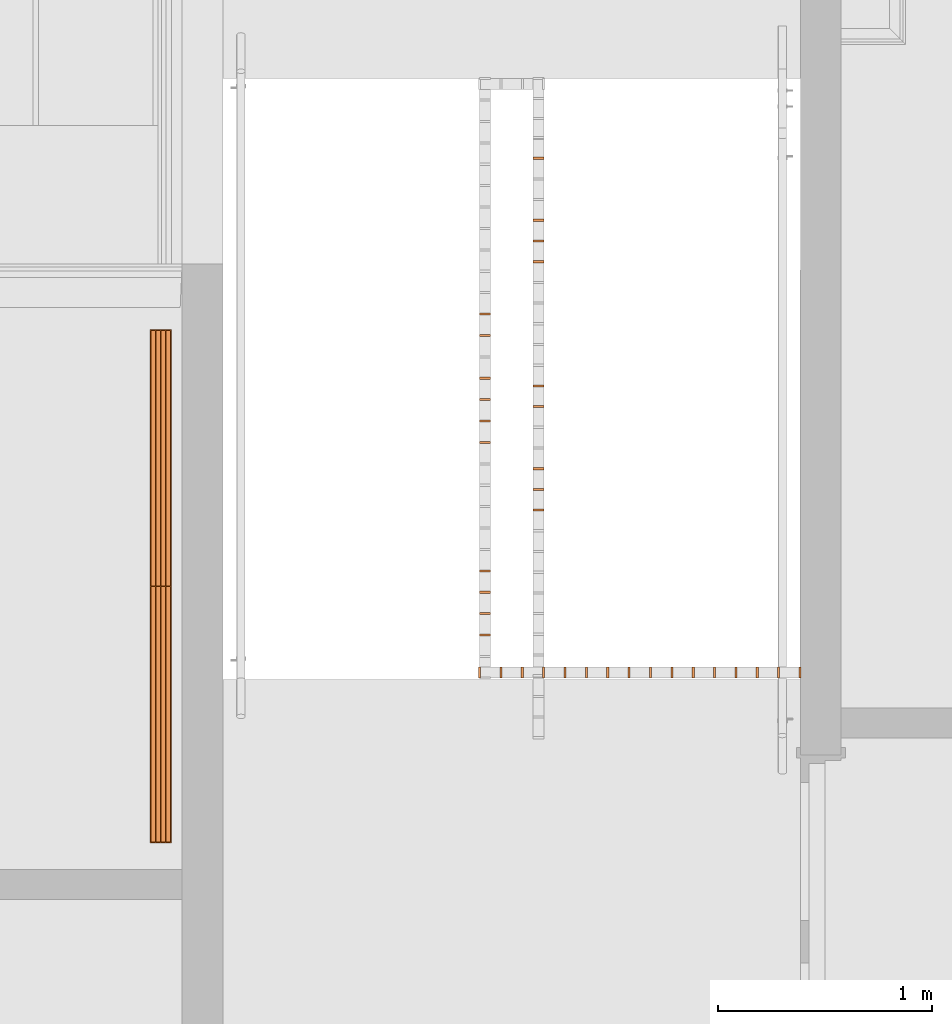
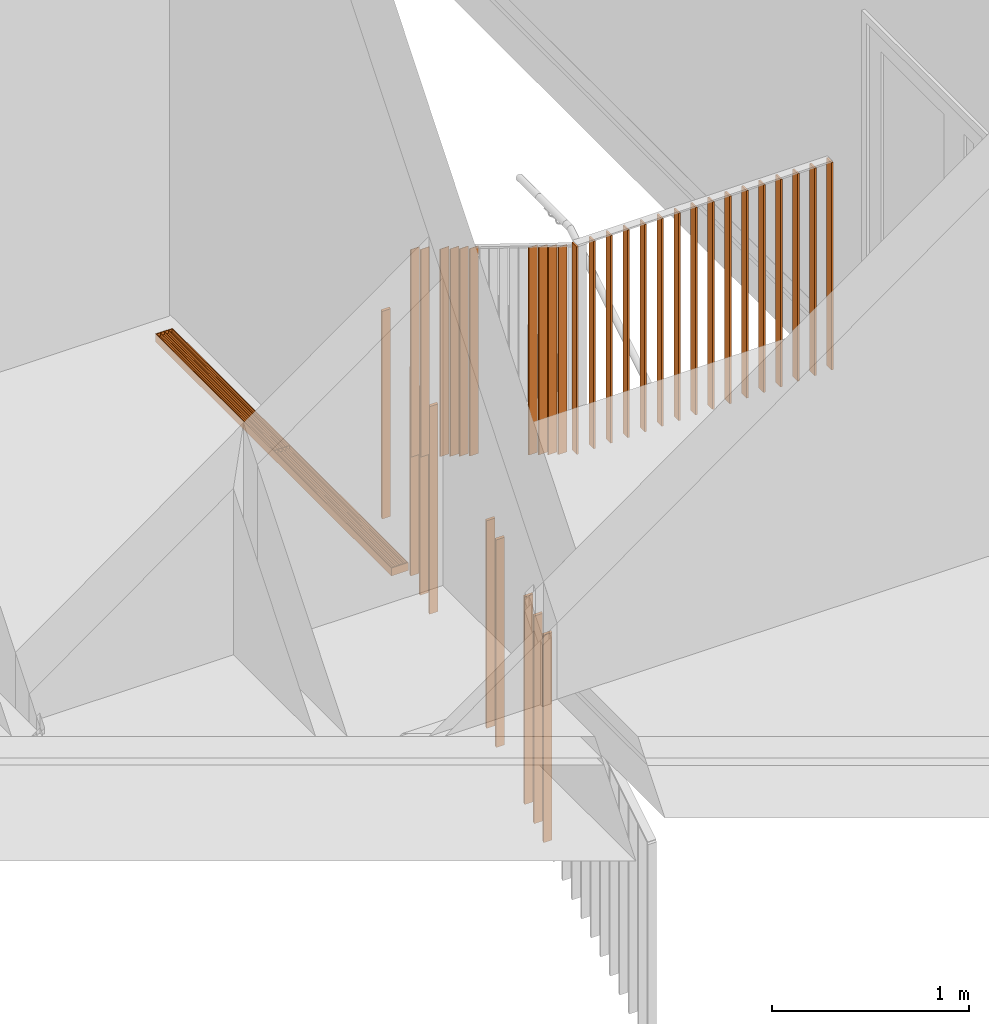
# One storey, part 75 of 100: 36 proxies, 3 elements without a shape of their own.
"""IFC2X3 building model written with IfcOpenShell, lengths in millimetres."""

from ifc_helpers import new_model, entity, si_unit, converted_unit, derived_unit, money_unit, direction, frame, origin_with_axes, place, context, subcontext, project, spatial, faceted_brep, source, transform, mapped, material, type_object, element, aggregate, save


model = new_model("IFC2X3")

# Units and contexts
model_context = context("Model", 3, precision=0.01, world=origin_with_axes(), true_north=direction((0.0, 1.0)))
body_context = subcontext(model_context, "Body", "Model", "MODEL_VIEW")
ifc_project = project(units=[si_unit("LENGTHUNIT", "METRE", prefix="MILLI"), si_unit("AREAUNIT", "SQUARE_METRE"), si_unit("VOLUMEUNIT", "CUBIC_METRE"), converted_unit("PLANEANGLEUNIT", "DEGREE", entity("IfcPlaneAngleMeasure", 0.0174532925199), si_unit("PLANEANGLEUNIT", "RADIAN"), dimensions=[0, 0, 0, 0, 0, 0, 0]), si_unit("SOLIDANGLEUNIT", "STERADIAN"), money_unit("EUR"), converted_unit("TIMEUNIT", "Year", entity("IfcTimeMeasure", 31556926.0), si_unit("TIMEUNIT", "SECOND"), dimensions=[0, 0, 1, 0, 0, 0, 0]), si_unit("MASSUNIT", "GRAM", prefix="KILO"), si_unit("THERMODYNAMICTEMPERATUREUNIT", "DEGREE_CELSIUS"), si_unit("LUMINOUSINTENSITYUNIT", "LUMEN"), si_unit("ENERGYUNIT", "JOULE", prefix="MEGA"), derived_unit("THERMALCONDUCTANCEUNIT", [(si_unit("POWERUNIT", "WATT"), 1), (si_unit("LENGTHUNIT", "METRE"), -1), (si_unit("THERMODYNAMICTEMPERATUREUNIT", "KELVIN"), -1)]), derived_unit("SPECIFICHEATCAPACITYUNIT", [(si_unit("ENERGYUNIT", "JOULE"), 1), (si_unit("MASSUNIT", "GRAM", prefix="KILO"), -1), (si_unit("THERMODYNAMICTEMPERATUREUNIT", "KELVIN"), -1)]), derived_unit("MASSDENSITYUNIT", [(si_unit("MASSUNIT", "GRAM", prefix="KILO"), 1), (si_unit("VOLUMEUNIT", "CUBIC_METRE"), -1)])], contexts=[model_context])

# Site, building, storey
site_placement = place(None, origin_with_axes())
site = spatial("IfcSite", under=ifc_project, at=site_placement, Name="Politse- ja Piirivalveameti ning Päästeameti ühishoone", CompositionType="ELEMENT")
building_placement = place(site_placement, origin_with_axes())
building = spatial("IfcBuilding", under=site, at=building_placement, Name="Politse- ja Piirivalveameti ning Päästeameti ühishoone", CompositionType="ELEMENT")
storey_placement = place(building_placement, frame((0.0, 0.0, 3800.0), z_axis=(0.0, 0.0, 1.0), x_axis=(1.0, 0.0, 0.0)))
storey = spatial("IfcBuildingStorey", under=building, at=storey_placement, Name="Teine korrus", CompositionType="ELEMENT", Elevation=3800.0)

# Railing, proxies
railing_type = type_object("IfcRailingType", Name="Railing Type", PredefinedType="NOTDEFINED")
railing_1_placement = place(storey_placement, frame((61660.557259, 19348.024656, -3925.83291166), z_axis=(0.0, 0.0, 1.0), x_axis=(-1.0, 0.0, 0.0)))
railing_1 = element("IfcRailing", 1, at=railing_1_placement, inside=storey, type_object=railing_type, Name="TREPIPIIR 1", PredefinedType="NOTDEFINED")
ifc_material = material(Name="Teras - Konstruktsioon")
building_element_proxy_type_1 = type_object("IfcBuildingElementProxyType", Name="IfcBuildingElementProxy", PredefinedType="NOTDEFINED")
shared_shape_1 = source(origin_with_axes(), body_context, "Body", "Brep", [
    faceted_brep([(25.0, 5.0, -3.08185890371), (-25.0, 5.0, -3.08185890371), (-25.0, 5.0, 1286.91815365), (25.0, 5.0, 1286.91815365), (25.0, -5.0, 3.08185890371), (-25.0, -5.0, 3.08185890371), (-25.0, -5.0, 1293.08187146), (25.0, -5.0, 1293.08187146)], [[[0, 1, 2, 3]], [[0, 4, 5, 1]], [[1, 5, 6, 2]], [[3, 2, 6, 7]], [[4, 0, 3, 7]], [[5, 4, 7, 6]]]),
])
proxy_1_placement = place(railing_1_placement, frame((25.0, 219.796710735, 1669.30480329), z_axis=(0.0, 0.0, 1.0), x_axis=(-1.0, 0.0, 0.0)))
proxy_1 = element("IfcBuildingElementProxy", 2, at=proxy_1_placement, type_object=building_element_proxy_type_1, material=ifc_material, Name="BALUSTER - 001", context=body_context, shape_type="MappedRepresentation", body=[
    mapped(shared_shape_1, transform((0.0, 0.0, 0.0), x_axis=(-1.0, 0.0, 0.0), y_axis=(0.0, -1.0, 0.0), z_axis=(0.0, 0.0, 1.0))),
])
proxy_2_placement = place(railing_1_placement, frame((25.0, 509.969124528, 1490.45071588), z_axis=(0.0, 0.0, 1.0), x_axis=(-1.0, 0.0, 0.0)))
proxy_2 = element("IfcBuildingElementProxy", 3, at=proxy_2_placement, type_object=building_element_proxy_type_1, material=ifc_material, Name="BALUSTER - 001", context=body_context, shape_type="MappedRepresentation", body=[
    mapped(shared_shape_1, transform((0.0, 0.0, 0.0), x_axis=(-1.0, 0.0, 0.0), y_axis=(0.0, -1.0, 0.0), z_axis=(0.0, 0.0, 1.0))),
])
shared_shape_2 = source(origin_with_axes(), body_context, "Body", "Brep", [
    faceted_brep([(25.0, 5.0, -3.08185890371), (-25.0, 5.0, -3.08185890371), (-25.0, 5.0, 1286.91815365), (25.0, 5.0, 1286.91815365), (25.0, -5.0, 3.08185890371), (-25.0, -5.0, 3.08185890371), (-25.0, -5.0, 1293.08187146), (25.0, -5.0, 1293.08187146)], [[[0, 1, 2, 3]], [[0, 4, 5, 1]], [[1, 5, 6, 2]], [[3, 2, 6, 7]], [[4, 0, 3, 7]], [[5, 4, 7, 6]]]),
])
proxy_3_placement = place(railing_1_placement, frame((25.0, 606.69326246, 1430.83268674), z_axis=(0.0, 0.0, 1.0), x_axis=(-1.0, 0.0, 0.0)))
proxy_3 = element("IfcBuildingElementProxy", 4, at=proxy_3_placement, type_object=building_element_proxy_type_1, material=ifc_material, Name="BALUSTER - 001", context=body_context, shape_type="MappedRepresentation", body=[
    mapped(shared_shape_2, transform((0.0, 0.0, 0.0), x_axis=(-1.0, 0.0, 0.0), y_axis=(0.0, -1.0, 0.0), z_axis=(0.0, 0.0, 1.0))),
])
shared_shape_3 = source(origin_with_axes(), body_context, "Body", "Brep", [
    faceted_brep([(25.0, 5.0, -3.08185890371), (-25.0, 5.0, -3.08185890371), (-25.0, 5.0, 1286.91815365), (25.0, 5.0, 1286.91815365), (25.0, -5.0, 3.08185890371), (-25.0, -5.0, 3.08185890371), (-25.0, -5.0, 1293.08187146), (25.0, -5.0, 1293.08187146)], [[[0, 1, 2, 3]], [[0, 4, 5, 1]], [[1, 5, 6, 2]], [[3, 2, 6, 7]], [[4, 0, 3, 7]], [[5, 4, 7, 6]]]),
])
proxy_4_placement = place(railing_1_placement, frame((25.0, 703.417400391, 1371.21465761), z_axis=(0.0, 0.0, 1.0), x_axis=(-1.0, 0.0, 0.0)))
proxy_4 = element("IfcBuildingElementProxy", 5, at=proxy_4_placement, type_object=building_element_proxy_type_1, material=ifc_material, Name="BALUSTER - 001", context=body_context, shape_type="MappedRepresentation", body=[
    mapped(shared_shape_3, transform((0.0, 0.0, 0.0), x_axis=(-1.0, 0.0, 0.0), y_axis=(0.0, -1.0, 0.0), z_axis=(0.0, 0.0, 1.0))),
])
proxy_5_placement = place(railing_1_placement, frame((25.0, 1283.76222798, 1013.50648278), z_axis=(0.0, 0.0, 1.0), x_axis=(-1.0, 0.0, 0.0)))
proxy_5 = element("IfcBuildingElementProxy", 6, at=proxy_5_placement, type_object=building_element_proxy_type_1, material=ifc_material, Name="BALUSTER - 001", context=body_context, shape_type="MappedRepresentation", body=[
    mapped(shared_shape_3, transform((0.0, 0.0, 0.0), x_axis=(-1.0, 0.0, 0.0), y_axis=(0.0, -1.0, 0.0), z_axis=(0.0, 0.0, 1.0))),
])
proxy_6_placement = place(railing_1_placement, frame((25.0, 1864.10705556, 655.798307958), z_axis=(0.0, 0.0, 1.0), x_axis=(-1.0, 0.0, 0.0)))
proxy_6 = element("IfcBuildingElementProxy", 7, at=proxy_6_placement, type_object=building_element_proxy_type_1, material=ifc_material, Name="BALUSTER - 001", context=body_context, shape_type="MappedRepresentation", body=[
    mapped(shared_shape_3, transform((0.0, 0.0, 0.0), x_axis=(-1.0, 0.0, 0.0), y_axis=(0.0, -1.0, 0.0), z_axis=(0.0, 0.0, 1.0))),
])
shared_shape_4 = source(origin_with_axes(), body_context, "Body", "Brep", [
    faceted_brep([(25.0, 5.0, -3.08185890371), (-25.0, 5.0, -3.08185890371), (-25.0, 5.0, 1286.91815365), (25.0, 5.0, 1286.91815365), (25.0, -5.0, 3.08185890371), (-25.0, -5.0, 3.08185890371), (-25.0, -5.0, 1293.08187146), (25.0, -5.0, 1293.08187146)], [[[0, 1, 2, 3]], [[0, 4, 5, 1]], [[1, 5, 6, 2]], [[3, 2, 6, 7]], [[4, 0, 3, 7]], [[5, 4, 7, 6]]]),
])
proxy_7_placement = place(railing_1_placement, frame((25.0, 1767.38291763, 715.416337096), z_axis=(0.0, 0.0, 1.0), x_axis=(-1.0, 0.0, 0.0)))
proxy_7 = element("IfcBuildingElementProxy", 8, at=proxy_7_placement, type_object=building_element_proxy_type_1, material=ifc_material, Name="BALUSTER - 001", context=body_context, shape_type="MappedRepresentation", body=[
    mapped(shared_shape_4, transform((0.0, 0.0, 0.0), x_axis=(-1.0, 0.0, 0.0), y_axis=(0.0, -1.0, 0.0), z_axis=(0.0, 0.0, 1.0))),
])
shared_shape_5 = source(origin_with_axes(), body_context, "Body", "Brep", [
    faceted_brep([(25.0, 5.0, -3.08185890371), (-25.0, 5.0, -3.08185890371), (-25.0, 5.0, 1286.91815365), (25.0, 5.0, 1286.91815365), (25.0, -5.0, 3.08185890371), (-25.0, -5.0, 3.08185890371), (-25.0, -5.0, 1293.08187146), (25.0, -5.0, 1293.08187146)], [[[0, 1, 2, 3]], [[0, 4, 5, 1]], [[1, 5, 6, 2]], [[3, 2, 6, 7]], [[4, 0, 3, 7]], [[5, 4, 7, 6]]]),
])
proxy_8_placement = place(railing_1_placement, frame((25.0, 1380.48636591, 953.888453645), z_axis=(0.0, 0.0, 1.0), x_axis=(-1.0, 0.0, 0.0)))
proxy_8 = element("IfcBuildingElementProxy", 9, at=proxy_8_placement, type_object=building_element_proxy_type_1, material=ifc_material, Name="BALUSTER - 001", context=body_context, shape_type="MappedRepresentation", body=[
    mapped(shared_shape_5, transform((0.0, 0.0, 0.0), x_axis=(-1.0, 0.0, 0.0), y_axis=(0.0, -1.0, 0.0), z_axis=(0.0, 0.0, 1.0))),
])
proxy_9_placement = place(railing_1_placement, frame((25.0, 1670.6587797, 775.034366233), z_axis=(0.0, 0.0, 1.0), x_axis=(-1.0, 0.0, 0.0)))
proxy_9 = element("IfcBuildingElementProxy", 10, at=proxy_9_placement, type_object=building_element_proxy_type_1, material=ifc_material, Name="BALUSTER - 001", context=body_context, shape_type="MappedRepresentation", body=[
    mapped(shared_shape_5, transform((0.0, 0.0, 0.0), x_axis=(-1.0, 0.0, 0.0), y_axis=(0.0, -1.0, 0.0), z_axis=(0.0, 0.0, 1.0))),
])
aggregate(railing_1, [proxy_1, proxy_2, proxy_3, proxy_4, proxy_5, proxy_8, proxy_9, proxy_7, proxy_6])

railing_2_placement = place(storey_placement, frame((61360.5519118, 16576.8795104, -2027.27275421), z_axis=(0.0, 0.0, 1.0), x_axis=(1.0, 0.0, 0.0)))
railing_2 = element("IfcRailing", 11, at=railing_2_placement, inside=storey, type_object=railing_type, Name="TREPIPIIRE 4", PredefinedType="NOTDEFINED")
shared_shape_6 = source(origin_with_axes(), body_context, "Body", "Brep", [
    faceted_brep([(25.0, 5.0, -3.08441558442), (-25.0, 5.0, -3.08441558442), (-25.0, 5.0, 1286.91559697), (25.0, 5.0, 1286.91559697), (25.0, -5.0, 3.08441558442), (-25.0, -5.0, 3.08441558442), (-25.0, -5.0, 1293.08442814), (25.0, -5.0, 1293.08442814)], [[[0, 1, 2, 3]], [[0, 4, 5, 1]], [[1, 5, 6, 2]], [[3, 2, 6, 7]], [[4, 0, 3, 7]], [[5, 4, 7, 6]]]),
])
proxy_10_placement = place(railing_2_placement, frame((25.0, 323.072572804, 1603.89609134), z_axis=(0.0, 0.0, 1.0), x_axis=(1.0, 0.0, 0.0)))
proxy_10 = element("IfcBuildingElementProxy", 12, at=proxy_10_placement, type_object=building_element_proxy_type_1, material=ifc_material, Name="BALUSTER - 001", context=body_context, shape_type="MappedRepresentation", body=[
    mapped(shared_shape_6, transform((0.0, 0.0, 0.0))),
])
proxy_11_placement = place(railing_2_placement, frame((25.0, 1823.0725728, 678.57141602), z_axis=(0.0, 0.0, 1.0), x_axis=(1.0, 0.0, 0.0)))
proxy_11 = element("IfcBuildingElementProxy", 13, at=proxy_11_placement, type_object=building_element_proxy_type_1, material=ifc_material, Name="BALUSTER - 001", context=body_context, shape_type="MappedRepresentation", body=[
    mapped(shared_shape_6, transform((0.0, 0.0, 0.0))),
])
shared_shape_7 = source(origin_with_axes(), body_context, "Body", "Brep", [
    faceted_brep([(25.0, 5.0, -3.08441558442), (-25.0, 5.0, -3.08441558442), (-25.0, 5.0, 1286.91559697), (25.0, 5.0, 1286.91559697), (25.0, -5.0, 3.08441558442), (-25.0, -5.0, 3.08441558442), (-25.0, -5.0, 1293.08442814), (25.0, -5.0, 1293.08442814)], [[[0, 1, 2, 3]], [[0, 4, 5, 1]], [[1, 5, 6, 2]], [[3, 2, 6, 7]], [[4, 0, 3, 7]], [[5, 4, 7, 6]]]),
])
proxy_12_placement = place(railing_2_placement, frame((25.0, 423.072572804, 1542.20777966), z_axis=(0.0, 0.0, 1.0), x_axis=(1.0, 0.0, 0.0)))
proxy_12 = element("IfcBuildingElementProxy", 14, at=proxy_12_placement, type_object=building_element_proxy_type_1, material=ifc_material, Name="BALUSTER - 001", context=body_context, shape_type="MappedRepresentation", body=[
    mapped(shared_shape_7, transform((0.0, 0.0, 0.0))),
])
proxy_13_placement = place(railing_2_placement, frame((25.0, 623.072572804, 1418.83115628), z_axis=(0.0, 0.0, 1.0), x_axis=(1.0, 0.0, 0.0)))
proxy_13 = element("IfcBuildingElementProxy", 15, at=proxy_13_placement, type_object=building_element_proxy_type_1, material=ifc_material, Name="BALUSTER - 001", context=body_context, shape_type="MappedRepresentation", body=[
    mapped(shared_shape_7, transform((0.0, 0.0, 0.0))),
])
shared_shape_8 = source(origin_with_axes(), body_context, "Body", "Brep", [
    faceted_brep([(25.0, 5.0, -3.08441558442), (-25.0, 5.0, -3.08441558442), (-25.0, 5.0, 1286.91559697), (25.0, 5.0, 1286.91559697), (25.0, -5.0, 3.08441558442), (-25.0, -5.0, 3.08441558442), (-25.0, -5.0, 1293.08442814), (25.0, -5.0, 1293.08442814)], [[[0, 1, 2, 3]], [[0, 4, 5, 1]], [[1, 5, 6, 2]], [[3, 2, 6, 7]], [[4, 0, 3, 7]], [[5, 4, 7, 6]]]),
])
proxy_14_placement = place(railing_2_placement, frame((25.0, 523.072572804, 1480.51946797), z_axis=(0.0, 0.0, 1.0), x_axis=(1.0, 0.0, 0.0)))
proxy_14 = element("IfcBuildingElementProxy", 16, at=proxy_14_placement, type_object=building_element_proxy_type_1, material=ifc_material, Name="BALUSTER - 001", context=body_context, shape_type="MappedRepresentation", body=[
    mapped(shared_shape_8, transform((0.0, 0.0, 0.0))),
])
proxy_15_placement = place(railing_2_placement, frame((25.0, 1323.0725728, 987.012974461), z_axis=(0.0, 0.0, 1.0), x_axis=(1.0, 0.0, 0.0)))
proxy_15 = element("IfcBuildingElementProxy", 17, at=proxy_15_placement, type_object=building_element_proxy_type_1, material=ifc_material, Name="BALUSTER - 001", context=body_context, shape_type="MappedRepresentation", body=[
    mapped(shared_shape_8, transform((0.0, 0.0, 0.0))),
])
shared_shape_9 = source(origin_with_axes(), body_context, "Body", "Brep", [
    faceted_brep([(25.0, 5.0, -3.08441558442), (-25.0, 5.0, -3.08441558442), (-25.0, 5.0, 1286.91559697), (25.0, 5.0, 1286.91559697), (25.0, -5.0, 3.08441558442), (-25.0, -5.0, 3.08441558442), (-25.0, -5.0, 1293.08442814), (25.0, -5.0, 1293.08442814)], [[[0, 1, 2, 3]], [[0, 4, 5, 1]], [[1, 5, 6, 2]], [[3, 2, 6, 7]], [[4, 0, 3, 7]], [[5, 4, 7, 6]]]),
])
proxy_16_placement = place(railing_2_placement, frame((25.0, 1223.0725728, 1048.70128615), z_axis=(0.0, 0.0, 1.0), x_axis=(1.0, 0.0, 0.0)))
proxy_16 = element("IfcBuildingElementProxy", 18, at=proxy_16_placement, type_object=building_element_proxy_type_1, material=ifc_material, Name="BALUSTER - 001", context=body_context, shape_type="MappedRepresentation", body=[
    mapped(shared_shape_9, transform((0.0, 0.0, 0.0))),
])
proxy_17_placement = place(railing_2_placement, frame((25.0, 1723.0725728, 740.259727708), z_axis=(0.0, 0.0, 1.0), x_axis=(1.0, 0.0, 0.0)))
proxy_17 = element("IfcBuildingElementProxy", 19, at=proxy_17_placement, type_object=building_element_proxy_type_1, material=ifc_material, Name="BALUSTER - 001", context=body_context, shape_type="MappedRepresentation", body=[
    mapped(shared_shape_9, transform((0.0, 0.0, 0.0))),
])
shared_shape_10 = source(origin_with_axes(), body_context, "Body", "Brep", [
    faceted_brep([(25.0, 5.0, -3.08441558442), (-25.0, 5.0, -3.08441558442), (-25.0, 5.0, 1286.91559697), (25.0, 5.0, 1286.91559697), (25.0, -5.0, 3.08441558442), (-25.0, -5.0, 3.08441558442), (-25.0, -5.0, 1293.08442814), (25.0, -5.0, 1293.08442814)], [[[0, 1, 2, 3]], [[0, 4, 5, 1]], [[1, 5, 6, 2]], [[3, 2, 6, 7]], [[4, 0, 3, 7]], [[5, 4, 7, 6]]]),
])
proxy_18_placement = place(railing_2_placement, frame((25.0, 1423.0725728, 925.324662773), z_axis=(0.0, 0.0, 1.0), x_axis=(1.0, 0.0, 0.0)))
proxy_18 = element("IfcBuildingElementProxy", 20, at=proxy_18_placement, type_object=building_element_proxy_type_1, material=ifc_material, Name="BALUSTER - 001", context=body_context, shape_type="MappedRepresentation", body=[
    mapped(shared_shape_10, transform((0.0, 0.0, 0.0))),
])
proxy_19_placement = place(railing_2_placement, frame((25.0, 1523.0725728, 863.636351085), z_axis=(0.0, 0.0, 1.0), x_axis=(1.0, 0.0, 0.0)))
proxy_19 = element("IfcBuildingElementProxy", 21, at=proxy_19_placement, type_object=building_element_proxy_type_1, material=ifc_material, Name="BALUSTER - 001", context=body_context, shape_type="MappedRepresentation", body=[
    mapped(shared_shape_10, transform((0.0, 0.0, 0.0))),
])
aggregate(railing_2, [proxy_10, proxy_12, proxy_14, proxy_13, proxy_16, proxy_15, proxy_18, proxy_19, proxy_17, proxy_11])

railing_3_placement = place(storey_placement, frame((64283.6244846, 16699.9520832, -300.000026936), z_axis=(0.0, 0.0, 1.0), x_axis=(0.0, 1.0, 0.0)))
railing_3 = element("IfcRailing", 22, at=railing_3_placement, inside=storey, type_object=railing_type, Name="TREPIPIIRE 5", PredefinedType="NOTDEFINED")
shared_shape_11 = source(origin_with_axes(), body_context, "Body", "Brep", [
    faceted_brep([(25.0, 5.0, 0.0), (-25.0, 5.0, 0.0), (-25.0, 4.99999999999, 1290.0), (25.0, 4.99999999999, 1290.0), (25.0, -5.0, 0.0), (-25.0, -5.0, 0.0), (-25.0, -5.00000000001, 1290.0), (25.0, -5.00000000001, 1290.0)], [[[0, 1, 2, 3]], [[0, 4, 5, 1]], [[1, 5, 6, 2]], [[3, 2, 6, 7]], [[4, 0, 3, 7]], [[5, 4, 7, 6]]]),
])
proxy_20_placement = place(railing_3_placement, frame((25.0, 1425.75114423, 0.0), z_axis=(0.0, 0.0, 1.0), x_axis=(0.0, -1.0, 0.0)))
proxy_20 = element("IfcBuildingElementProxy", 23, at=proxy_20_placement, type_object=building_element_proxy_type_1, material=ifc_material, Name="PIIRDE POST - 001", context=body_context, shape_type="MappedRepresentation", body=[
    mapped(shared_shape_11, transform((0.0, 0.0, 0.0), x_axis=(0.0, 1.0, 0.0), y_axis=(-1.0, 0.0, 0.0), z_axis=(0.0, 0.0, 1.0))),
])
proxy_21_placement = place(railing_3_placement, frame((25.0, 2923.0725728, 0.0), z_axis=(0.0, 0.0, 1.0), x_axis=(0.0, -1.0, 0.0)))
proxy_21 = element("IfcBuildingElementProxy", 24, at=proxy_21_placement, type_object=building_element_proxy_type_1, material=ifc_material, Name="PIIRDE POST - 001", context=body_context, shape_type="MappedRepresentation", body=[
    mapped(shared_shape_11, transform((0.0, 0.0, 0.0), x_axis=(0.0, 1.0, 0.0), y_axis=(-1.0, 0.0, 0.0), z_axis=(0.0, 0.0, 1.0))),
])
shared_shape_12 = source(origin_with_axes(), body_context, "Body", "Brep", [
    faceted_brep([(25.0, 5.0, 0.0), (-25.0, 5.0, 0.0), (-25.0, 4.99999999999, 1290.00001255), (25.0, 4.99999999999, 1290.00001255), (25.0, -5.0, 0.0), (-25.0, -5.0, 0.0), (-25.0, -5.00000000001, 1290.00001255), (25.0, -5.00000000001, 1290.00001255)], [[[0, 1, 2, 3]], [[0, 4, 5, 1]], [[1, 5, 6, 2]], [[3, 2, 6, 7]], [[4, 0, 3, 7]], [[5, 4, 7, 6]]]),
])
proxy_22_placement = place(railing_3_placement, frame((25.0, 1525.5725728, -1.25517001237e-05), z_axis=(0.0, 0.0, 1.0), x_axis=(0.0, -1.0, 0.0)))
proxy_22 = element("IfcBuildingElementProxy", 25, at=proxy_22_placement, type_object=building_element_proxy_type_1, material=ifc_material, Name="BALUSTER - 001", context=body_context, shape_type="MappedRepresentation", body=[
    mapped(shared_shape_12, transform((0.0, 0.0, 0.0), x_axis=(0.0, 1.0, 0.0), y_axis=(-1.0, 0.0, 0.0), z_axis=(0.0, 0.0, 1.0))),
])
proxy_23_placement = place(railing_3_placement, frame((25.0, 1625.39400138, -1.25517001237e-05), z_axis=(0.0, 0.0, 1.0), x_axis=(0.0, -1.0, 0.0)))
proxy_23 = element("IfcBuildingElementProxy", 26, at=proxy_23_placement, type_object=building_element_proxy_type_1, material=ifc_material, Name="BALUSTER - 001", context=body_context, shape_type="MappedRepresentation", body=[
    mapped(shared_shape_12, transform((0.0, 0.0, 0.0), x_axis=(0.0, 1.0, 0.0), y_axis=(-1.0, 0.0, 0.0), z_axis=(0.0, 0.0, 1.0))),
])
proxy_24_placement = place(railing_3_placement, frame((25.0, 1725.21542995, -1.25517001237e-05), z_axis=(0.0, 0.0, 1.0), x_axis=(0.0, -1.0, 0.0)))
proxy_24 = element("IfcBuildingElementProxy", 27, at=proxy_24_placement, type_object=building_element_proxy_type_1, material=ifc_material, Name="BALUSTER - 001", context=body_context, shape_type="MappedRepresentation", body=[
    mapped(shared_shape_12, transform((0.0, 0.0, 0.0), x_axis=(0.0, 1.0, 0.0), y_axis=(-1.0, 0.0, 0.0), z_axis=(0.0, 0.0, 1.0))),
])
proxy_25_placement = place(railing_3_placement, frame((25.0, 1825.03685852, -1.25517001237e-05), z_axis=(0.0, 0.0, 1.0), x_axis=(0.0, -1.0, 0.0)))
proxy_25 = element("IfcBuildingElementProxy", 28, at=proxy_25_placement, type_object=building_element_proxy_type_1, material=ifc_material, Name="BALUSTER - 001", context=body_context, shape_type="MappedRepresentation", body=[
    mapped(shared_shape_12, transform((0.0, 0.0, 0.0), x_axis=(0.0, 1.0, 0.0), y_axis=(-1.0, 0.0, 0.0), z_axis=(0.0, 0.0, 1.0))),
])
proxy_26_placement = place(railing_3_placement, frame((25.0, 1924.85828709, -1.25517001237e-05), z_axis=(0.0, 0.0, 1.0), x_axis=(0.0, -1.0, 0.0)))
proxy_26 = element("IfcBuildingElementProxy", 29, at=proxy_26_placement, type_object=building_element_proxy_type_1, material=ifc_material, Name="BALUSTER - 001", context=body_context, shape_type="MappedRepresentation", body=[
    mapped(shared_shape_12, transform((0.0, 0.0, 0.0), x_axis=(0.0, 1.0, 0.0), y_axis=(-1.0, 0.0, 0.0), z_axis=(0.0, 0.0, 1.0))),
])
proxy_27_placement = place(railing_3_placement, frame((25.0, 2024.67971566, -1.25517001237e-05), z_axis=(0.0, 0.0, 1.0), x_axis=(0.0, -1.0, 0.0)))
proxy_27 = element("IfcBuildingElementProxy", 30, at=proxy_27_placement, type_object=building_element_proxy_type_1, material=ifc_material, Name="BALUSTER - 001", context=body_context, shape_type="MappedRepresentation", body=[
    mapped(shared_shape_12, transform((0.0, 0.0, 0.0), x_axis=(0.0, 1.0, 0.0), y_axis=(-1.0, 0.0, 0.0), z_axis=(0.0, 0.0, 1.0))),
])
proxy_28_placement = place(railing_3_placement, frame((25.0, 2124.50114423, -1.25517001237e-05), z_axis=(0.0, 0.0, 1.0), x_axis=(0.0, -1.0, 0.0)))
proxy_28 = element("IfcBuildingElementProxy", 31, at=proxy_28_placement, type_object=building_element_proxy_type_1, material=ifc_material, Name="BALUSTER - 001", context=body_context, shape_type="MappedRepresentation", body=[
    mapped(shared_shape_12, transform((0.0, 0.0, 0.0), x_axis=(0.0, 1.0, 0.0), y_axis=(-1.0, 0.0, 0.0), z_axis=(0.0, 0.0, 1.0))),
])
proxy_29_placement = place(railing_3_placement, frame((25.0, 2224.3225728, -1.25517001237e-05), z_axis=(0.0, 0.0, 1.0), x_axis=(0.0, -1.0, 0.0)))
proxy_29 = element("IfcBuildingElementProxy", 32, at=proxy_29_placement, type_object=building_element_proxy_type_1, material=ifc_material, Name="BALUSTER - 001", context=body_context, shape_type="MappedRepresentation", body=[
    mapped(shared_shape_12, transform((0.0, 0.0, 0.0), x_axis=(0.0, 1.0, 0.0), y_axis=(-1.0, 0.0, 0.0), z_axis=(0.0, 0.0, 1.0))),
])
proxy_30_placement = place(railing_3_placement, frame((25.0, 2324.14400138, -1.25517001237e-05), z_axis=(0.0, 0.0, 1.0), x_axis=(0.0, -1.0, 0.0)))
proxy_30 = element("IfcBuildingElementProxy", 33, at=proxy_30_placement, type_object=building_element_proxy_type_1, material=ifc_material, Name="BALUSTER - 001", context=body_context, shape_type="MappedRepresentation", body=[
    mapped(shared_shape_12, transform((0.0, 0.0, 0.0), x_axis=(0.0, 1.0, 0.0), y_axis=(-1.0, 0.0, 0.0), z_axis=(0.0, 0.0, 1.0))),
])
proxy_31_placement = place(railing_3_placement, frame((25.0, 2423.96542995, -1.25517001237e-05), z_axis=(0.0, 0.0, 1.0), x_axis=(0.0, -1.0, 0.0)))
proxy_31 = element("IfcBuildingElementProxy", 34, at=proxy_31_placement, type_object=building_element_proxy_type_1, material=ifc_material, Name="BALUSTER - 001", context=body_context, shape_type="MappedRepresentation", body=[
    mapped(shared_shape_12, transform((0.0, 0.0, 0.0), x_axis=(0.0, 1.0, 0.0), y_axis=(-1.0, 0.0, 0.0), z_axis=(0.0, 0.0, 1.0))),
])
proxy_32_placement = place(railing_3_placement, frame((25.0, 2523.78685852, -1.25517001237e-05), z_axis=(0.0, 0.0, 1.0), x_axis=(0.0, -1.0, 0.0)))
proxy_32 = element("IfcBuildingElementProxy", 35, at=proxy_32_placement, type_object=building_element_proxy_type_1, material=ifc_material, Name="BALUSTER - 001", context=body_context, shape_type="MappedRepresentation", body=[
    mapped(shared_shape_12, transform((0.0, 0.0, 0.0), x_axis=(0.0, 1.0, 0.0), y_axis=(-1.0, 0.0, 0.0), z_axis=(0.0, 0.0, 1.0))),
])
proxy_33_placement = place(railing_3_placement, frame((25.0, 2623.60828709, -1.25517001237e-05), z_axis=(0.0, 0.0, 1.0), x_axis=(0.0, -1.0, 0.0)))
proxy_33 = element("IfcBuildingElementProxy", 36, at=proxy_33_placement, type_object=building_element_proxy_type_1, material=ifc_material, Name="BALUSTER - 001", context=body_context, shape_type="MappedRepresentation", body=[
    mapped(shared_shape_12, transform((0.0, 0.0, 0.0), x_axis=(0.0, 1.0, 0.0), y_axis=(-1.0, 0.0, 0.0), z_axis=(0.0, 0.0, 1.0))),
])
proxy_34_placement = place(railing_3_placement, frame((25.0, 2723.42971566, -1.25517001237e-05), z_axis=(0.0, 0.0, 1.0), x_axis=(0.0, -1.0, 0.0)))
proxy_34 = element("IfcBuildingElementProxy", 37, at=proxy_34_placement, type_object=building_element_proxy_type_1, material=ifc_material, Name="BALUSTER - 001", context=body_context, shape_type="MappedRepresentation", body=[
    mapped(shared_shape_12, transform((0.0, 0.0, 0.0), x_axis=(0.0, 1.0, 0.0), y_axis=(-1.0, 0.0, 0.0), z_axis=(0.0, 0.0, 1.0))),
])
proxy_35_placement = place(railing_3_placement, frame((25.0, 2823.25114423, -1.25517001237e-05), z_axis=(0.0, 0.0, 1.0), x_axis=(0.0, -1.0, 0.0)))
proxy_35 = element("IfcBuildingElementProxy", 38, at=proxy_35_placement, type_object=building_element_proxy_type_1, material=ifc_material, Name="BALUSTER - 001", context=body_context, shape_type="MappedRepresentation", body=[
    mapped(shared_shape_12, transform((0.0, 0.0, 0.0), x_axis=(0.0, 1.0, 0.0), y_axis=(-1.0, 0.0, 0.0), z_axis=(0.0, 0.0, 1.0))),
])
aggregate(railing_3, [proxy_20, proxy_21, proxy_22, proxy_23, proxy_24, proxy_25, proxy_26, proxy_27, proxy_28, proxy_29, proxy_30, proxy_31, proxy_32, proxy_33, proxy_34, proxy_35])

# Proxy
building_element_proxy_type_2 = type_object("IfcBuildingElementProxyType", Name="Grid 23", PredefinedType="NOTDEFINED")
shared_shape_13 = source(origin_with_axes(), body_context, "Body", "Brep", [
    faceted_brep([(0.0, 0.0, 0.0), (5.0, 5.0, 0.0), (5.0, 5.0, 50.0), (0.0, 0.0, 50.0), (0.0, 2400.0, 0.0), (5.0, 2395.0, 0.0), (5.0, 1201.0, 0.0), (5.0, 1199.0, 0.0), (5.0, 1199.0, 50.0), (5.0, 1201.0, 50.0), (5.0, 2395.0, 50.0), (0.0, 2400.0, 50.0)], [[[0, 1, 2, 3]], [[0, 4, 5, 6, 7, 1]], [[1, 7, 8, 2]], [[3, 2, 8, 9, 10, 11]], [[4, 0, 3, 11]], [[5, 4, 11, 10]], [[6, 5, 10, 9]], [[7, 6, 9, 8]]]),
    faceted_brep([(100.0, 2400.0, 0.0), (95.0, 2395.0, 0.0), (95.0, 2395.0, 50.0), (100.0, 2400.0, 50.0), (100.0, 0.0, 0.0), (95.0, 5.0, 0.0), (95.0, 1199.0, 0.0), (95.0, 1201.0, 0.0), (95.0, 1201.0, 50.0), (95.0, 1199.0, 50.0), (95.0, 5.0, 50.0), (100.0, 0.0, 50.0)], [[[0, 1, 2, 3]], [[0, 4, 5, 6, 7, 1]], [[1, 7, 8, 2]], [[3, 2, 8, 9, 10, 11]], [[4, 0, 3, 11]], [[5, 4, 11, 10]], [[6, 5, 10, 9]], [[7, 6, 9, 8]]]),
    faceted_brep([(100.0, 0.0, 0.0), (95.0, 5.0, 0.0), (95.0, 5.0, 50.0), (100.0, 0.0, 50.0), (0.0, 0.0, 0.0), (5.0, 5.0, 0.0), (25.25, 5.0, 0.0), (27.25, 5.0, 0.0), (49.0, 5.0, 0.0), (51.0, 5.0, 0.0), (72.75, 5.0, 0.0), (74.75, 5.0, 0.0), (74.75, 5.0, 50.0), (72.75, 5.0, 50.0), (51.0, 5.0, 50.0), (49.0, 5.0, 50.0), (27.25, 5.0, 50.0), (25.25, 5.0, 50.0), (5.0, 5.0, 50.0), (0.0, 0.0, 50.0)], [[[0, 1, 2, 3]], [[0, 4, 5, 6, 7, 8, 9, 10, 11, 1]], [[1, 11, 12, 2]], [[3, 2, 12, 13, 14, 15, 16, 17, 18, 19]], [[4, 0, 3, 19]], [[5, 4, 19, 18]], [[6, 5, 18, 17]], [[7, 6, 17, 16]], [[8, 7, 16, 15]], [[9, 8, 15, 14]], [[10, 9, 14, 13]], [[11, 10, 13, 12]]]),
    faceted_brep([(0.0, 2400.0, 0.0), (5.0, 2395.0, 0.0), (5.0, 2395.0, 50.0), (0.0, 2400.0, 50.0), (100.0, 2400.0, 0.0), (95.0, 2395.0, 0.0), (74.75, 2395.0, 0.0), (72.75, 2395.0, 0.0), (51.0, 2395.0, 0.0), (49.0, 2395.0, 0.0), (27.25, 2395.0, 0.0), (25.25, 2395.0, 0.0), (25.25, 2395.0, 50.0), (27.25, 2395.0, 50.0), (49.0, 2395.0, 50.0), (51.0, 2395.0, 50.0), (72.75, 2395.0, 50.0), (74.75, 2395.0, 50.0), (95.0, 2395.0, 50.0), (100.0, 2400.0, 50.0)], [[[0, 1, 2, 3]], [[0, 4, 5, 6, 7, 8, 9, 10, 11, 1]], [[1, 11, 12, 2]], [[3, 2, 12, 13, 14, 15, 16, 17, 18, 19]], [[4, 0, 3, 19]], [[5, 4, 19, 18]], [[6, 5, 18, 17]], [[7, 6, 17, 16]], [[8, 7, 16, 15]], [[9, 8, 15, 14]], [[10, 9, 14, 13]], [[11, 10, 13, 12]]]),
    faceted_brep([(25.25, 5.0, 0.0), (27.25, 5.0, 0.0), (27.25, 5.0, 50.0), (25.25, 5.0, 50.0), (25.25, 1199.0, 0.0), (25.25, 1201.0, 0.0), (25.25, 2395.0, 0.0), (27.25, 2395.0, 0.0), (27.25, 1201.0, 0.0), (27.25, 1199.0, 0.0), (27.25, 1199.0, 50.0), (27.25, 1201.0, 50.0), (27.25, 2395.0, 50.0), (25.25, 2395.0, 50.0), (25.25, 1201.0, 50.0), (25.25, 1199.0, 50.0)], [[[0, 1, 2, 3]], [[0, 4, 5, 6, 7, 8, 9, 1]], [[1, 9, 10, 2]], [[3, 2, 10, 11, 12, 13, 14, 15]], [[4, 0, 3, 15]], [[5, 4, 15, 14]], [[6, 5, 14, 13]], [[7, 6, 13, 12]], [[8, 7, 12, 11]], [[9, 8, 11, 10]]]),
    faceted_brep([(49.0, 5.0, 0.0), (51.0, 5.0, 0.0), (51.0, 5.0, 50.0), (49.0, 5.0, 50.0), (49.0, 1199.0, 0.0), (49.0, 1201.0, 0.0), (49.0, 2395.0, 0.0), (51.0, 2395.0, 0.0), (51.0, 1201.0, 0.0), (51.0, 1199.0, 0.0), (51.0, 1199.0, 50.0), (51.0, 1201.0, 50.0), (51.0, 2395.0, 50.0), (49.0, 2395.0, 50.0), (49.0, 1201.0, 50.0), (49.0, 1199.0, 50.0)], [[[0, 1, 2, 3]], [[0, 4, 5, 6, 7, 8, 9, 1]], [[1, 9, 10, 2]], [[3, 2, 10, 11, 12, 13, 14, 15]], [[4, 0, 3, 15]], [[5, 4, 15, 14]], [[6, 5, 14, 13]], [[7, 6, 13, 12]], [[8, 7, 12, 11]], [[9, 8, 11, 10]]]),
    faceted_brep([(72.75, 5.0, 0.0), (74.75, 5.0, 0.0), (74.75, 5.0, 50.0), (72.75, 5.0, 50.0), (72.75, 1199.0, 0.0), (72.75, 1201.0, 0.0), (72.75, 2395.0, 0.0), (74.75, 2395.0, 0.0), (74.75, 1201.0, 0.0), (74.75, 1199.0, 0.0), (74.75, 1199.0, 50.0), (74.75, 1201.0, 50.0), (74.75, 2395.0, 50.0), (72.75, 2395.0, 50.0), (72.75, 1201.0, 50.0), (72.75, 1199.0, 50.0)], [[[0, 1, 2, 3]], [[0, 4, 5, 6, 7, 8, 9, 1]], [[1, 9, 10, 2]], [[3, 2, 10, 11, 12, 13, 14, 15]], [[4, 0, 3, 15]], [[5, 4, 15, 14]], [[6, 5, 14, 13]], [[7, 6, 13, 12]], [[8, 7, 12, 11]], [[9, 8, 11, 10]]]),
    faceted_brep([(25.25, 1199.0, 0.0), (25.25, 1201.0, 0.0), (25.25, 1201.0, 50.0), (25.25, 1199.0, 50.0), (5.0, 1199.0, 0.0), (5.0, 1201.0, 0.0), (5.0, 1201.0, 50.0), (5.0, 1199.0, 50.0)], [[[0, 1, 2, 3]], [[0, 4, 5, 1]], [[1, 5, 6, 2]], [[3, 2, 6, 7]], [[4, 0, 3, 7]], [[5, 4, 7, 6]]]),
    faceted_brep([(49.0, 1199.0, 0.0), (49.0, 1201.0, 0.0), (49.0, 1201.0, 50.0), (49.0, 1199.0, 50.0), (27.25, 1199.0, 0.0), (27.25, 1201.0, 0.0), (27.25, 1201.0, 50.0), (27.25, 1199.0, 50.0)], [[[0, 1, 2, 3]], [[0, 4, 5, 1]], [[1, 5, 6, 2]], [[3, 2, 6, 7]], [[4, 0, 3, 7]], [[5, 4, 7, 6]]]),
    faceted_brep([(72.75, 1199.0, 0.0), (72.75, 1201.0, 0.0), (72.75, 1201.0, 50.0), (72.75, 1199.0, 50.0), (51.0, 1199.0, 0.0), (51.0, 1201.0, 0.0), (51.0, 1201.0, 50.0), (51.0, 1199.0, 50.0)], [[[0, 1, 2, 3]], [[0, 4, 5, 1]], [[1, 5, 6, 2]], [[3, 2, 6, 7]], [[4, 0, 3, 7]], [[5, 4, 7, 6]]]),
    faceted_brep([(95.0, 1199.0, 0.0), (95.0, 1201.0, 0.0), (95.0, 1201.0, 50.0), (95.0, 1199.0, 50.0), (74.75, 1199.0, 0.0), (74.75, 1201.0, 0.0), (74.75, 1201.0, 50.0), (74.75, 1199.0, 50.0)], [[[0, 1, 2, 3]], [[0, 4, 5, 1]], [[1, 5, 6, 2]], [[3, 2, 6, 7]], [[4, 0, 3, 7]], [[5, 4, 7, 6]]]),
    faceted_brep([(5.0, 5.0, 18.65), (25.25, 5.0, 18.65), (25.25, 5.0, 31.35), (5.0, 5.0, 31.35), (5.0, 1199.0, 18.65), (25.25, 1199.0, 18.65), (25.25, 1199.0, 31.35), (5.0, 1199.0, 31.35)], [[[0, 1, 2, 3]], [[0, 4, 5, 1]], [[1, 5, 6, 2]], [[3, 2, 6, 7]], [[4, 0, 3, 7]], [[5, 4, 7, 6]]]),
    faceted_brep([(5.0, 1201.0, 18.65), (25.25, 1201.0, 18.65), (25.25, 1201.0, 31.35), (5.0, 1201.0, 31.35), (5.0, 2395.0, 18.65), (25.25, 2395.0, 18.65), (25.25, 2395.0, 31.35), (5.0, 2395.0, 31.35)], [[[0, 1, 2, 3]], [[0, 4, 5, 1]], [[1, 5, 6, 2]], [[3, 2, 6, 7]], [[4, 0, 3, 7]], [[5, 4, 7, 6]]]),
    faceted_brep([(27.25, 5.0, 18.65), (49.0, 5.0, 18.65), (49.0, 5.0, 31.35), (27.25, 5.0, 31.35), (27.25, 1199.0, 18.65), (49.0, 1199.0, 18.65), (49.0, 1199.0, 31.35), (27.25, 1199.0, 31.35)], [[[0, 1, 2, 3]], [[0, 4, 5, 1]], [[1, 5, 6, 2]], [[3, 2, 6, 7]], [[4, 0, 3, 7]], [[5, 4, 7, 6]]]),
    faceted_brep([(27.25, 1201.0, 18.65), (49.0, 1201.0, 18.65), (49.0, 1201.0, 31.35), (27.25, 1201.0, 31.35), (27.25, 2395.0, 18.65), (49.0, 2395.0, 18.65), (49.0, 2395.0, 31.35), (27.25, 2395.0, 31.35)], [[[0, 1, 2, 3]], [[0, 4, 5, 1]], [[1, 5, 6, 2]], [[3, 2, 6, 7]], [[4, 0, 3, 7]], [[5, 4, 7, 6]]]),
    faceted_brep([(51.0, 5.0, 18.65), (72.75, 5.0, 18.65), (72.75, 5.0, 31.35), (51.0, 5.0, 31.35), (51.0, 1199.0, 18.65), (72.75, 1199.0, 18.65), (72.75, 1199.0, 31.35), (51.0, 1199.0, 31.35)], [[[0, 1, 2, 3]], [[0, 4, 5, 1]], [[1, 5, 6, 2]], [[3, 2, 6, 7]], [[4, 0, 3, 7]], [[5, 4, 7, 6]]]),
    faceted_brep([(51.0, 1201.0, 18.65), (72.75, 1201.0, 18.65), (72.75, 1201.0, 31.35), (51.0, 1201.0, 31.35), (51.0, 2395.0, 18.65), (72.75, 2395.0, 18.65), (72.75, 2395.0, 31.35), (51.0, 2395.0, 31.35)], [[[0, 1, 2, 3]], [[0, 4, 5, 1]], [[1, 5, 6, 2]], [[3, 2, 6, 7]], [[4, 0, 3, 7]], [[5, 4, 7, 6]]]),
    faceted_brep([(74.75, 5.0, 18.65), (95.0, 5.0, 18.65), (95.0, 5.0, 31.35), (74.75, 5.0, 31.35), (74.75, 1199.0, 18.65), (95.0, 1199.0, 18.65), (95.0, 1199.0, 31.35), (74.75, 1199.0, 31.35)], [[[0, 1, 2, 3]], [[0, 4, 5, 1]], [[1, 5, 6, 2]], [[3, 2, 6, 7]], [[4, 0, 3, 7]], [[5, 4, 7, 6]]]),
    faceted_brep([(74.75, 1201.0, 18.65), (95.0, 1201.0, 18.65), (95.0, 1201.0, 31.35), (74.75, 1201.0, 31.35), (74.75, 2395.0, 18.65), (95.0, 2395.0, 18.65), (95.0, 2395.0, 31.35), (74.75, 2395.0, 31.35)], [[[0, 1, 2, 3]], [[0, 4, 5, 1]], [[1, 5, 6, 2]], [[3, 2, 6, 7]], [[4, 0, 3, 7]], [[5, 4, 7, 6]]]),
])
proxy_36_placement = place(storey_placement, frame((59821.3733307, 15928.9873038, -50.0), z_axis=(0.0, 0.0, 1.0), x_axis=(1.0, 0.0, 0.0)))
element("IfcBuildingElementProxy", 39, at=proxy_36_placement, inside=storey, type_object=building_element_proxy_type_2, Name="Äravoolurenn (220)", context=body_context, shape_type="MappedRepresentation", body=[
    mapped(shared_shape_13, transform((0.0, 0.0, 0.0))),
])

save(model, "model.ifc")
